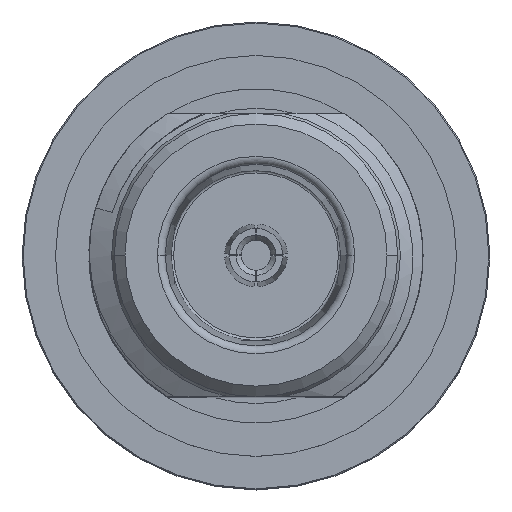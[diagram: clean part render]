
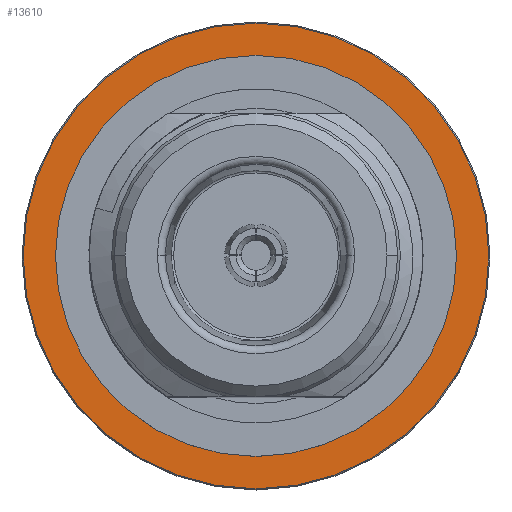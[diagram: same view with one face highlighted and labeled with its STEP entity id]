
A CAD part, top view. The second image highlights one B-rep face of the part: STEP entity #13610.
In plain terms, the highlighted planar face has unit normal (0, 0, 1).
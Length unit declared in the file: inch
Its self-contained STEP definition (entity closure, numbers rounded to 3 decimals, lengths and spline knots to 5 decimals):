
#1804=CARTESIAN_POINT('',(0.,0.,-0.5585));
#1805=DIRECTION('',(0.,0.,-1.));
#1806=DIRECTION('',(-1.,0.,0.));
#1807=AXIS2_PLACEMENT_3D('',#1804,#1805,#1806);
#1809=CARTESIAN_POINT('',(0.,0.,-0.5585));
#1810=DIRECTION('',(0.,0.,-1.));
#1811=DIRECTION('',(1.,0.,0.));
#1812=AXIS2_PLACEMENT_3D('',#1809,#1810,#1811);
#1814=CARTESIAN_POINT('',(0.,0.,-0.5585));
#1815=DIRECTION('',(0.,0.,1.));
#1816=DIRECTION('',(0.,1.,0.));
#1817=AXIS2_PLACEMENT_3D('',#1814,#1815,#1816);
#1819=CARTESIAN_POINT('',(0.,0.,-0.5585));
#1820=DIRECTION('',(0.,0.,1.));
#1821=DIRECTION('',(0.,-1.,0.));
#1822=AXIS2_PLACEMENT_3D('',#1819,#1820,#1821);
#11151=CARTESIAN_POINT('',(0.4355,0.,
-0.5585));
#11152=VERTEX_POINT('',#11151);
#11153=CARTESIAN_POINT('',(-0.4355,0.,-0.5585));
#11154=VERTEX_POINT('',#11153);
#12308=CARTESIAN_POINT('',(0.,0.375,-0.5585));
#12309=CARTESIAN_POINT('',(0.,-0.375,-0.5585));
#12310=VERTEX_POINT('',#12308);
#12311=VERTEX_POINT('',#12309);
#13595=CARTESIAN_POINT('',(0.,0.,-0.5585));
#13596=DIRECTION('',(0.,0.,1.));
#13597=DIRECTION('',(0.,-1.,0.));
#13598=AXIS2_PLACEMENT_3D('',#13595,#13596,#13597);
#13599=PLANE('',#13598);
#13600=ORIENTED_EDGE('',*,*,#13521,.T.);
#13601=ORIENTED_EDGE('',*,*,#13543,.T.);
#13602=EDGE_LOOP('',(#13600,#13601));
#13603=FACE_OUTER_BOUND('',#13602,.F.);
#13605=ORIENTED_EDGE('',*,*,#13604,.T.);
#13607=ORIENTED_EDGE('',*,*,#13606,.T.);
#13608=EDGE_LOOP('',(#13605,#13607));
#13609=FACE_BOUND('',#13608,.F.);
#1808=CIRCLE('',#1807,0.4355);
#1813=CIRCLE('',#1812,0.4355);
#1818=CIRCLE('',#1817,0.375);
#1823=CIRCLE('',#1822,0.375);
#13521=EDGE_CURVE('',#11154,#11152,#1808,.T.);
#13543=EDGE_CURVE('',#11152,#11154,#1813,.T.);
#13604=EDGE_CURVE('',#12310,#12311,#1818,.T.);
#13606=EDGE_CURVE('',#12311,#12310,#1823,.T.);
#13610=ADVANCED_FACE('',(#13603,#13609),#13599,.T.);
